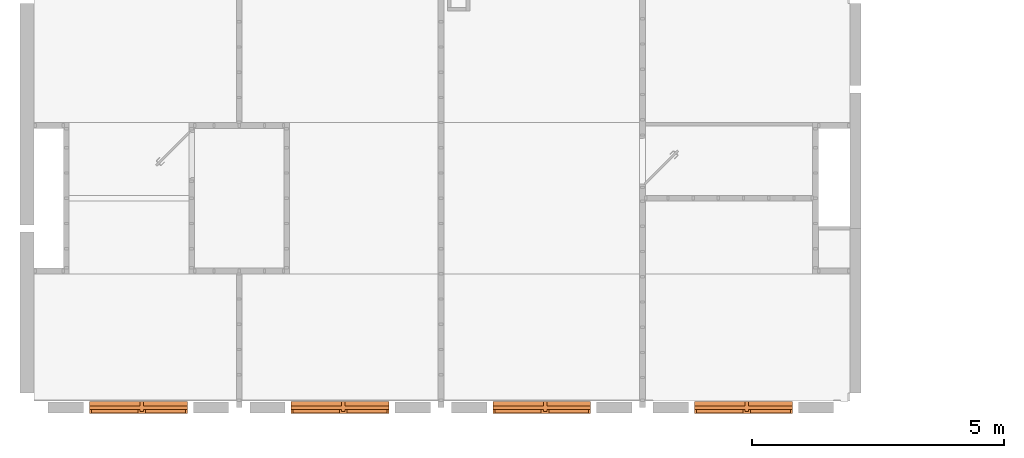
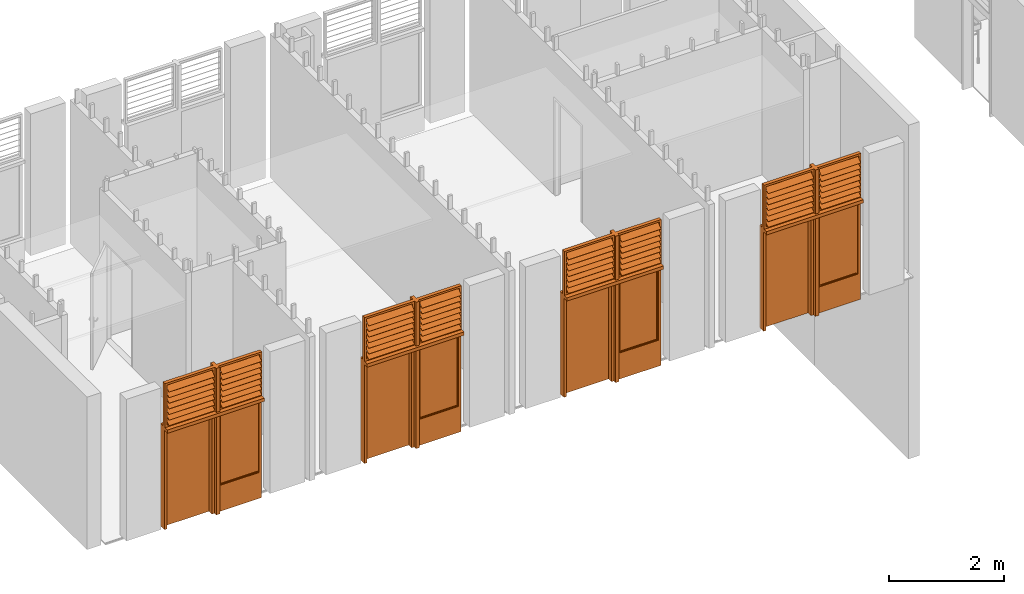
# One storey, part 15 of 20: 4 proxies.
"""IFC2X3 building model written with IfcOpenShell, lengths in metres."""

from ifc_helpers import new_model, entity, si_unit, converted_unit, derived_unit, direction, frame, origin, place, context, subcontext, project, spatial, faceted_brep, source, transform, mapped, material, material_list, type_object, type_shapes, element, save


model = new_model("IFC2X3")

# Units and contexts
model_context = context("Model", 3, precision=1e-05, world=origin(), true_north=direction((6.12303176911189e-17, 1.0)))
body_context = subcontext(model_context, "Body", "Model", "MODEL_VIEW")
ifc_project = project(units=[si_unit("LENGTHUNIT", "METRE"), si_unit("AREAUNIT", "SQUARE_METRE"), si_unit("VOLUMEUNIT", "CUBIC_METRE"), converted_unit("PLANEANGLEUNIT", "DEGREE", entity("IfcRatioMeasure", 0.0174532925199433), si_unit("PLANEANGLEUNIT", "RADIAN"), dimensions=[0, 0, 0, 0, 0, 0, 0]), si_unit("MASSUNIT", "GRAM", prefix="KILO"), derived_unit("MASSDENSITYUNIT", [(si_unit("MASSUNIT", "GRAM", prefix="KILO"), 1), (si_unit("LENGTHUNIT", "METRE"), -3)]), si_unit("TIMEUNIT", "SECOND"), si_unit("FREQUENCYUNIT", "HERTZ"), si_unit("THERMODYNAMICTEMPERATUREUNIT", "DEGREE_CELSIUS"), derived_unit("THERMALTRANSMITTANCEUNIT", [(si_unit("MASSUNIT", "GRAM", prefix="KILO"), 1), (si_unit("THERMODYNAMICTEMPERATUREUNIT", "KELVIN"), -1), (si_unit("TIMEUNIT", "SECOND"), -3)]), derived_unit("VOLUMETRICFLOWRATEUNIT", [(si_unit("LENGTHUNIT", "METRE"), 3), (si_unit("TIMEUNIT", "SECOND"), -1)]), si_unit("ELECTRICCURRENTUNIT", "AMPERE"), si_unit("ELECTRICVOLTAGEUNIT", "VOLT"), si_unit("POWERUNIT", "WATT"), si_unit("FORCEUNIT", "NEWTON", prefix="KILO"), si_unit("ILLUMINANCEUNIT", "LUX"), si_unit("LUMINOUSFLUXUNIT", "LUMEN"), si_unit("LUMINOUSINTENSITYUNIT", "CANDELA"), derived_unit("USERDEFINED", [(si_unit("MASSUNIT", "GRAM", prefix="KILO"), -1), (si_unit("LENGTHUNIT", "METRE"), -2), (si_unit("TIMEUNIT", "SECOND"), 3), (si_unit("LUMINOUSFLUXUNIT", "LUMEN"), 1)]), derived_unit("LINEARVELOCITYUNIT", [(si_unit("LENGTHUNIT", "METRE"), 1), (si_unit("TIMEUNIT", "SECOND"), -1)]), si_unit("PRESSUREUNIT", "PASCAL"), derived_unit("USERDEFINED", [(si_unit("LENGTHUNIT", "METRE"), -2), (si_unit("MASSUNIT", "GRAM", prefix="KILO"), 1), (si_unit("TIMEUNIT", "SECOND"), -2)])], contexts=[model_context])

# Site, building, storey
site_placement = place(None, origin())
site = spatial("IfcSite", under=ifc_project, at=site_placement, Name="Surface", CompositionType="ELEMENT")
building_placement = place(site_placement, origin())
building = spatial("IfcBuilding", under=site, at=building_placement, Name="ExPREF", CompositionType="ELEMENT")
storey_placement = place(building_placement, frame((0.0, 0.0, 4.27)))
storey = spatial("IfcBuildingStorey", under=building, at=storey_placement, Name="R+1", CompositionType="ELEMENT", Elevation=4.27)

# Proxies
ifc_material_1 = material(Name="AA-Aluminium")
ifc_material_2 = material(Name="AA-vitrage")
ifc_material_3 = material(Name="AA-bois menuiseries")
ifc_material_list_1 = material_list([ifc_material_1, ifc_material_2, ifc_material_3])
ifc_material_list_2 = material_list([ifc_material_1, ifc_material_2, ifc_material_3])
building_element_proxy_type = type_object("IfcBuildingElementProxyType", Name="R+2 porte + fenetre", PredefinedType="NOTDEFINED", material=ifc_material_list_2)
shared_shape = source(origin(), body_context, "Body", "Brep", [
    faceted_brep([(0.139999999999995, -0.113917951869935, 3.02140538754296), (0.139999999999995, -0.11833588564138, 3.02771485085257), (0.139999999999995, -0.101483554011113, 3.03951498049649), (0.139999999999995, -0.0970656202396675, 3.03320551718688), (0.930000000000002, -0.113917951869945, 3.02140538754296), (0.930000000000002, -0.0970656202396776, 3.03320551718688), (0.930000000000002, -0.101483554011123, 3.03951498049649), (0.930000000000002, -0.118335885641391, 3.02771485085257)], [[[0, 1, 2, 3]], [[4, 5, 6, 7]], [[3, 5, 4, 0]], [[2, 6, 5, 3]], [[1, 7, 6, 2]], [[0, 4, 7, 1]]]),
    faceted_brep([(0.139999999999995, -0.114720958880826, 3.02255220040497), (0.139999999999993, -0.220741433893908, 2.94831586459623), (0.139999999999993, -0.223609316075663, 2.95241162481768), (0.139999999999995, -0.117588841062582, 3.02664796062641), (0.930000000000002, -0.114720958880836, 3.02255220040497), (0.930000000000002, -0.117588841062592, 3.02664796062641), (0.93, -0.223609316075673, 2.95241162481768), (0.93, -0.220741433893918, 2.94831586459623)], [[[0, 1, 2, 3]], [[4, 5, 6, 7]], [[3, 5, 4, 0]], [[2, 6, 5, 3]], [[1, 7, 6, 2]], [[0, 4, 7, 1]]]),
    faceted_brep([(-0.930000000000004, -0.113917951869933, 3.02140538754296), (-0.930000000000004, -0.118335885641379, 3.02771485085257), (-0.930000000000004, -0.101483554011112, 3.03951498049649), (-0.930000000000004, -0.097065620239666, 3.03320551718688), (-0.00999999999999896, -0.113917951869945, 3.02140538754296), (-0.00999999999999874, -0.0970656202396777, 3.03320551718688), (-0.0099999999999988, -0.101483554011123, 3.03951498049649), (-0.00999999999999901, -0.118335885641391, 3.02771485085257)], [[[0, 1, 2, 3]], [[4, 5, 6, 7]], [[3, 5, 4, 0]], [[2, 6, 5, 3]], [[1, 7, 6, 2]], [[0, 4, 7, 1]]]),
    faceted_brep([(-0.930000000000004, -0.114720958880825, 3.02255220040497), (-0.930000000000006, -0.220741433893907, 2.94831586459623), (-0.930000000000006, -0.223609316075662, 2.95241162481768), (-0.930000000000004, -0.11758884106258, 3.02664796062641), (-0.00999999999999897, -0.114720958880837, 3.02255220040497), (-0.009999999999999, -0.117588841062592, 3.02664796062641), (-0.0100000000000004, -0.223609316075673, 2.95241162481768), (-0.0100000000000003, -0.220741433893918, 2.94831586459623)], [[[0, 1, 2, 3]], [[4, 5, 6, 7]], [[3, 5, 4, 0]], [[2, 6, 5, 3]], [[1, 7, 6, 2]], [[0, 4, 7, 1]]]),
    faceted_brep([(0.139999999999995, -0.113917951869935, 2.90240538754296), (0.139999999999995, -0.11833588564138, 2.90871485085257), (0.139999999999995, -0.101483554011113, 2.92051498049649), (0.139999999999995, -0.0970656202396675, 2.91420551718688), (0.930000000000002, -0.113917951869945, 2.90240538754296), (0.930000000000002, -0.0970656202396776, 2.91420551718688), (0.930000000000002, -0.101483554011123, 2.92051498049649), (0.930000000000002, -0.118335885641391, 2.90871485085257)], [[[0, 1, 2, 3]], [[4, 5, 6, 7]], [[3, 5, 4, 0]], [[2, 6, 5, 3]], [[1, 7, 6, 2]], [[0, 4, 7, 1]]]),
    faceted_brep([(0.139999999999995, -0.114720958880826, 2.90355220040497), (0.139999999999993, -0.220741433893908, 2.82931586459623), (0.139999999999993, -0.223609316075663, 2.83341162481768), (0.139999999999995, -0.117588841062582, 2.90764796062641), (0.930000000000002, -0.114720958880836, 2.90355220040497), (0.930000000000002, -0.117588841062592, 2.90764796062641), (0.93, -0.223609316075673, 2.83341162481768), (0.93, -0.220741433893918, 2.82931586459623)], [[[0, 1, 2, 3]], [[4, 5, 6, 7]], [[3, 5, 4, 0]], [[2, 6, 5, 3]], [[1, 7, 6, 2]], [[0, 4, 7, 1]]]),
    faceted_brep([(-0.930000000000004, -0.113917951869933, 2.90240538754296), (-0.930000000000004, -0.118335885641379, 2.90871485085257), (-0.930000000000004, -0.101483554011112, 2.92051498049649), (-0.930000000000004, -0.097065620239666, 2.91420551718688), (-0.00999999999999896, -0.113917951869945, 2.90240538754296), (-0.00999999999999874, -0.0970656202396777, 2.91420551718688), (-0.0099999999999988, -0.101483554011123, 2.92051498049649), (-0.00999999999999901, -0.118335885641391, 2.90871485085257)], [[[0, 1, 2, 3]], [[4, 5, 6, 7]], [[3, 5, 4, 0]], [[2, 6, 5, 3]], [[1, 7, 6, 2]], [[0, 4, 7, 1]]]),
    faceted_brep([(-0.930000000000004, -0.114720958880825, 2.90355220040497), (-0.930000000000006, -0.220741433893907, 2.82931586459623), (-0.930000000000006, -0.223609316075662, 2.83341162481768), (-0.930000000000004, -0.11758884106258, 2.90764796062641), (-0.00999999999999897, -0.114720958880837, 2.90355220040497), (-0.009999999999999, -0.117588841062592, 2.90764796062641), (-0.0100000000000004, -0.223609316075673, 2.83341162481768), (-0.0100000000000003, -0.220741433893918, 2.82931586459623)], [[[0, 1, 2, 3]], [[4, 5, 6, 7]], [[3, 5, 4, 0]], [[2, 6, 5, 3]], [[1, 7, 6, 2]], [[0, 4, 7, 1]]]),
    faceted_brep([(0.139999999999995, -0.113917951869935, 2.78340538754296), (0.139999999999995, -0.11833588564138, 2.78971485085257), (0.139999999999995, -0.101483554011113, 2.80151498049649), (0.139999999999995, -0.0970656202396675, 2.79520551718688), (0.930000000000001, -0.113917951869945, 2.78340538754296), (0.930000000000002, -0.0970656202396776, 2.79520551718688), (0.930000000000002, -0.101483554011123, 2.80151498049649), (0.930000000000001, -0.118335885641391, 2.78971485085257)], [[[0, 1, 2, 3]], [[4, 5, 6, 7]], [[3, 5, 4, 0]], [[2, 6, 5, 3]], [[1, 7, 6, 2]], [[0, 4, 7, 1]]]),
    faceted_brep([(0.139999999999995, -0.114720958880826, 2.78455220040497), (0.139999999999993, -0.220741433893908, 2.71031586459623), (0.139999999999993, -0.223609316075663, 2.71441162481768), (0.139999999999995, -0.117588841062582, 2.78864796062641), (0.930000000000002, -0.114720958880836, 2.78455220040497), (0.930000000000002, -0.117588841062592, 2.78864796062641), (0.93, -0.223609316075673, 2.71441162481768), (0.93, -0.220741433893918, 2.71031586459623)], [[[0, 1, 2, 3]], [[4, 5, 6, 7]], [[3, 5, 4, 0]], [[2, 6, 5, 3]], [[1, 7, 6, 2]], [[0, 4, 7, 1]]]),
    faceted_brep([(-0.930000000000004, -0.113917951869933, 2.78340538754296), (-0.930000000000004, -0.118335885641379, 2.78971485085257), (-0.930000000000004, -0.101483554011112, 2.80151498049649), (-0.930000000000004, -0.097065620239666, 2.79520551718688), (-0.00999999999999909, -0.113917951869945, 2.78340538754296), (-0.00999999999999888, -0.0970656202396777, 2.79520551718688), (-0.00999999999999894, -0.101483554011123, 2.80151498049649), (-0.00999999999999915, -0.118335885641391, 2.78971485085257)], [[[0, 1, 2, 3]], [[4, 5, 6, 7]], [[3, 5, 4, 0]], [[2, 6, 5, 3]], [[1, 7, 6, 2]], [[0, 4, 7, 1]]]),
    faceted_brep([(-0.930000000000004, -0.114720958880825, 2.78455220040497), (-0.930000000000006, -0.220741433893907, 2.71031586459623), (-0.930000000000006, -0.223609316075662, 2.71441162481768), (-0.930000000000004, -0.11758884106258, 2.78864796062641), (-0.0099999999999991, -0.114720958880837, 2.78455220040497), (-0.00999999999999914, -0.117588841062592, 2.78864796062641), (-0.0100000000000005, -0.223609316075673, 2.71441162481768), (-0.0100000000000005, -0.220741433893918, 2.71031586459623)], [[[0, 1, 2, 3]], [[4, 5, 6, 7]], [[3, 5, 4, 0]], [[2, 6, 5, 3]], [[1, 7, 6, 2]], [[0, 4, 7, 1]]]),
    faceted_brep([(-0.930000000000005, -0.113917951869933, 2.66440538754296), (-0.930000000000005, -0.118335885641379, 2.67071485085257), (-0.930000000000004, -0.101483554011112, 2.68251498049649), (-0.930000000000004, -0.097065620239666, 2.67620551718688), (-0.00999999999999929, -0.113917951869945, 2.66440538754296), (-0.00999999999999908, -0.0970656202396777, 2.67620551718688), (-0.00999999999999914, -0.101483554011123, 2.68251498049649), (-0.00999999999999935, -0.118335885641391, 2.67071485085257)], [[[0, 1, 2, 3]], [[4, 5, 6, 7]], [[3, 5, 4, 0]], [[2, 6, 5, 3]], [[1, 7, 6, 2]], [[0, 4, 7, 1]]]),
    faceted_brep([(-0.930000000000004, -0.114720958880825, 2.66555220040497), (-0.930000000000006, -0.220741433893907, 2.59131586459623), (-0.930000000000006, -0.223609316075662, 2.59541162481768), (-0.930000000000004, -0.11758884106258, 2.66964796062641), (-0.0099999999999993, -0.114720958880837, 2.66555220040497), (-0.00999999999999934, -0.117588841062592, 2.66964796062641), (-0.0100000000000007, -0.223609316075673, 2.59541162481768), (-0.0100000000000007, -0.220741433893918, 2.59131586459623)], [[[0, 1, 2, 3]], [[4, 5, 6, 7]], [[3, 5, 4, 0]], [[2, 6, 5, 3]], [[1, 7, 6, 2]], [[0, 4, 7, 1]]]),
    faceted_brep([(-0.930000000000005, -0.113917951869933, 2.54540538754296), (-0.930000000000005, -0.118335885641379, 2.55171485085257), (-0.930000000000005, -0.101483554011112, 2.56351498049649), (-0.930000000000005, -0.097065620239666, 2.55720551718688), (-0.0099999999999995, -0.113917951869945, 2.54540538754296), (-0.00999999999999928, -0.0970656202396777, 2.55720551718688), (-0.00999999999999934, -0.101483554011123, 2.56351498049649), (-0.00999999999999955, -0.118335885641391, 2.55171485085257)], [[[0, 1, 2, 3]], [[4, 5, 6, 7]], [[3, 5, 4, 0]], [[2, 6, 5, 3]], [[1, 7, 6, 2]], [[0, 4, 7, 1]]]),
    faceted_brep([(-0.930000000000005, -0.114720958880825, 2.54655220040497), (-0.930000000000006, -0.220741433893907, 2.47231586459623), (-0.930000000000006, -0.223609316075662, 2.47641162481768), (-0.930000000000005, -0.11758884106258, 2.55064796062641), (-0.00999999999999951, -0.114720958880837, 2.54655220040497), (-0.00999999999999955, -0.117588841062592, 2.55064796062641), (-0.0100000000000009, -0.223609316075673, 2.47641162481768), (-0.0100000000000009, -0.220741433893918, 2.47231586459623)], [[[0, 1, 2, 3]], [[4, 5, 6, 7]], [[3, 5, 4, 0]], [[2, 6, 5, 3]], [[1, 7, 6, 2]], [[0, 4, 7, 1]]]),
    faceted_brep([(0.139999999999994, -0.113917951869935, 2.66440538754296), (0.139999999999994, -0.11833588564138, 2.67071485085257), (0.139999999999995, -0.101483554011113, 2.68251498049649), (0.139999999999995, -0.0970656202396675, 2.67620551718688), (0.930000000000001, -0.113917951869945, 2.66440538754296), (0.930000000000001, -0.0970656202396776, 2.67620551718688), (0.930000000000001, -0.101483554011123, 2.68251498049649), (0.930000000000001, -0.118335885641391, 2.67071485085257)], [[[0, 1, 2, 3]], [[4, 5, 6, 7]], [[3, 5, 4, 0]], [[2, 6, 5, 3]], [[1, 7, 6, 2]], [[0, 4, 7, 1]]]),
    faceted_brep([(0.139999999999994, -0.114720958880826, 2.66555220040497), (0.139999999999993, -0.220741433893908, 2.59131586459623), (0.139999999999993, -0.223609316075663, 2.59541162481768), (0.139999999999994, -0.117588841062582, 2.66964796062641), (0.930000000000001, -0.114720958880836, 2.66555220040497), (0.930000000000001, -0.117588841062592, 2.66964796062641), (0.93, -0.223609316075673, 2.59541162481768), (0.93, -0.220741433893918, 2.59131586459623)], [[[0, 1, 2, 3]], [[4, 5, 6, 7]], [[3, 5, 4, 0]], [[2, 6, 5, 3]], [[1, 7, 6, 2]], [[0, 4, 7, 1]]]),
    faceted_brep([(0.139999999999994, -0.113917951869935, 2.54540538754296), (0.139999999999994, -0.11833588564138, 2.55171485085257), (0.139999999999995, -0.101483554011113, 2.56351498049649), (0.139999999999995, -0.0970656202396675, 2.55720551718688), (0.930000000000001, -0.113917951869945, 2.54540538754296), (0.930000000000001, -0.0970656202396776, 2.55720551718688), (0.930000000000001, -0.101483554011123, 2.56351498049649), (0.930000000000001, -0.118335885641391, 2.55171485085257)], [[[0, 1, 2, 3]], [[4, 5, 6, 7]], [[3, 5, 4, 0]], [[2, 6, 5, 3]], [[1, 7, 6, 2]], [[0, 4, 7, 1]]]),
    faceted_brep([(0.139999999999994, -0.114720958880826, 2.54655220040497), (0.139999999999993, -0.220741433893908, 2.47231586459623), (0.139999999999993, -0.223609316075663, 2.47641162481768), (0.139999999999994, -0.117588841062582, 2.55064796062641), (0.930000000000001, -0.114720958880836, 2.54655220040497), (0.930000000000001, -0.117588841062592, 2.55064796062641), (0.93, -0.223609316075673, 2.47641162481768), (0.93, -0.220741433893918, 2.47231586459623)], [[[0, 1, 2, 3]], [[4, 5, 6, 7]], [[3, 5, 4, 0]], [[2, 6, 5, 3]], [[1, 7, 6, 2]], [[0, 4, 7, 1]]]),
    faceted_brep([(0.139999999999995, -0.113917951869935, 2.42640538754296), (0.139999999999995, -0.11833588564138, 2.43271485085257), (0.139999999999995, -0.101483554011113, 2.44451498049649), (0.139999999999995, -0.0970656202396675, 2.43820551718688), (0.930000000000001, -0.113917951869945, 2.42640538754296), (0.930000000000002, -0.0970656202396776, 2.43820551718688), (0.930000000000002, -0.101483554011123, 2.44451498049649), (0.930000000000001, -0.118335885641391, 2.43271485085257)], [[[0, 1, 2, 3]], [[4, 5, 6, 7]], [[3, 5, 4, 0]], [[2, 6, 5, 3]], [[1, 7, 6, 2]], [[0, 4, 7, 1]]]),
    faceted_brep([(0.139999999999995, -0.114720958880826, 2.42755220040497), (0.139999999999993, -0.220741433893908, 2.35331586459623), (0.139999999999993, -0.223609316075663, 2.35741162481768), (0.139999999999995, -0.117588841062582, 2.43164796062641), (0.930000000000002, -0.114720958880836, 2.42755220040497), (0.930000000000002, -0.117588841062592, 2.43164796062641), (0.93, -0.223609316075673, 2.35741162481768), (0.93, -0.220741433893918, 2.35331586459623)], [[[0, 1, 2, 3]], [[4, 5, 6, 7]], [[3, 5, 4, 0]], [[2, 6, 5, 3]], [[1, 7, 6, 2]], [[0, 4, 7, 1]]]),
    faceted_brep([(0.139999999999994, -0.113917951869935, 2.30740538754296), (0.139999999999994, -0.11833588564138, 2.31371485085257), (0.139999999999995, -0.101483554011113, 2.32551498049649), (0.139999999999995, -0.0970656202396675, 2.31920551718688), (0.930000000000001, -0.113917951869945, 2.30740538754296), (0.930000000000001, -0.0970656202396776, 2.31920551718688), (0.930000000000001, -0.101483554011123, 2.32551498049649), (0.930000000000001, -0.118335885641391, 2.31371485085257)], [[[0, 1, 2, 3]], [[4, 5, 6, 7]], [[3, 5, 4, 0]], [[2, 6, 5, 3]], [[1, 7, 6, 2]], [[0, 4, 7, 1]]]),
    faceted_brep([(0.139999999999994, -0.114720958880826, 2.30855220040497), (0.139999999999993, -0.220741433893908, 2.23431586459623), (0.139999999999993, -0.223609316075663, 2.23841162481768), (0.139999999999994, -0.117588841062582, 2.31264796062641), (0.930000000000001, -0.114720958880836, 2.30855220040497), (0.930000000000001, -0.117588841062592, 2.31264796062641), (0.93, -0.223609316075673, 2.23841162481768), (0.93, -0.220741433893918, 2.23431586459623)], [[[0, 1, 2, 3]], [[4, 5, 6, 7]], [[3, 5, 4, 0]], [[2, 6, 5, 3]], [[1, 7, 6, 2]], [[0, 4, 7, 1]]]),
    faceted_brep([(-0.930000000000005, -0.113917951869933, 2.42640538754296), (-0.930000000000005, -0.118335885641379, 2.43271485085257), (-0.930000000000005, -0.101483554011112, 2.44451498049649), (-0.930000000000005, -0.097065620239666, 2.43820551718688), (-0.0099999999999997, -0.113917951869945, 2.42640538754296), (-0.00999999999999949, -0.0970656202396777, 2.43820551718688), (-0.00999999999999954, -0.101483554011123, 2.44451498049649), (-0.00999999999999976, -0.118335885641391, 2.43271485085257)], [[[0, 1, 2, 3]], [[4, 5, 6, 7]], [[3, 5, 4, 0]], [[2, 6, 5, 3]], [[1, 7, 6, 2]], [[0, 4, 7, 1]]]),
    faceted_brep([(-0.930000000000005, -0.114720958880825, 2.42755220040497), (-0.930000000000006, -0.220741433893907, 2.35331586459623), (-0.930000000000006, -0.223609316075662, 2.35741162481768), (-0.930000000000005, -0.11758884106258, 2.43164796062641), (-0.00999999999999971, -0.114720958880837, 2.42755220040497), (-0.00999999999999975, -0.117588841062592, 2.43164796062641), (-0.0100000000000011, -0.223609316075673, 2.35741162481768), (-0.0100000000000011, -0.220741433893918, 2.35331586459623)], [[[0, 1, 2, 3]], [[4, 5, 6, 7]], [[3, 5, 4, 0]], [[2, 6, 5, 3]], [[1, 7, 6, 2]], [[0, 4, 7, 1]]]),
    faceted_brep([(-0.930000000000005, -0.113917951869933, 2.30740538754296), (-0.930000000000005, -0.118335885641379, 2.31371485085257), (-0.930000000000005, -0.101483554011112, 2.32551498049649), (-0.930000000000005, -0.097065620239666, 2.31920551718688), (-0.0099999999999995, -0.113917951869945, 2.30740538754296), (-0.00999999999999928, -0.0970656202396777, 2.31920551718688), (-0.00999999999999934, -0.101483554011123, 2.32551498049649), (-0.00999999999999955, -0.118335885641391, 2.31371485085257)], [[[0, 1, 2, 3]], [[4, 5, 6, 7]], [[3, 5, 4, 0]], [[2, 6, 5, 3]], [[1, 7, 6, 2]], [[0, 4, 7, 1]]]),
    faceted_brep([(-0.930000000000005, -0.114720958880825, 2.30855220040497), (-0.930000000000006, -0.220741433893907, 2.23431586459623), (-0.930000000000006, -0.223609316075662, 2.23841162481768), (-0.930000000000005, -0.11758884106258, 2.31264796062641), (-0.00999999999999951, -0.114720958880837, 2.30855220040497), (-0.00999999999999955, -0.117588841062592, 2.31264796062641), (-0.0100000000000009, -0.223609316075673, 2.23841162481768), (-0.0100000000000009, -0.220741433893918, 2.23431586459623)], [[[0, 1, 2, 3]], [[4, 5, 6, 7]], [[3, 5, 4, 0]], [[2, 6, 5, 3]], [[1, 7, 6, 2]], [[0, 4, 7, 1]]]),
    faceted_brep([(0.904999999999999, -0.0900000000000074, 2.03499999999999), (0.904999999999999, -0.0900000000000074, 0.564999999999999), (0.164999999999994, -0.0900000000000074, 0.564999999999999), (0.164999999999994, -0.0900000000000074, 2.03499999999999), (0.904999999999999, -0.110000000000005, 2.03499999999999), (0.164999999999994, -0.110000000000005, 2.03499999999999), (0.164999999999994, -0.110000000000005, 0.564999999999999), (0.904999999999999, -0.110000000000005, 0.564999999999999)], [[[0, 1, 2, 3]], [[4, 5, 6, 7]], [[0, 3, 5, 4]], [[3, 2, 6, 5]], [[2, 1, 7, 6]], [[1, 0, 4, 7]]]),
    faceted_brep([(0.934999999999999, -0.0800000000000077, 2.065), (0.934999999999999, -0.120000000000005, 2.065), (0.934999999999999, -0.120000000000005, 0.534999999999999), (0.934999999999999, -0.0800000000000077, 0.534999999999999), (0.904999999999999, -0.120000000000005, 2.03499999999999), (0.904999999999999, -0.0800000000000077, 2.03499999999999), (0.904999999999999, -0.0800000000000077, 0.564999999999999), (0.904999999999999, -0.120000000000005, 0.564999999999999), (0.134999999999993, -0.120000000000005, 0.534999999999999), (0.134999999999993, -0.0800000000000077, 0.534999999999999), (0.164999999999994, -0.0800000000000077, 0.564999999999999), (0.164999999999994, -0.120000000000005, 0.564999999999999), (0.134999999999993, -0.120000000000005, 2.065), (0.134999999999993, -0.0800000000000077, 2.065), (0.164999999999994, -0.0800000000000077, 2.03499999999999), (0.164999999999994, -0.120000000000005, 2.03499999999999)], [[[0, 1, 2, 3]], [[4, 5, 6, 7]], [[3, 2, 8, 9]], [[7, 6, 10, 11]], [[9, 8, 12, 13]], [[11, 10, 14, 15]], [[7, 11, 15, 4], [1, 12, 8, 2]], [[13, 12, 1, 0]], [[3, 9, 13, 0], [5, 14, 10, 6]], [[15, 14, 5, 4]]], outer=[[True], [True], [True], [True], [True], [True], [False, True], [True], [True, False], [True]]),
    faceted_brep([(0.969999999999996, -0.140000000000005, 0.500000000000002), (0.969999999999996, -0.080000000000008, 0.500000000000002), (0.969999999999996, -0.080000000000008, 2.09999999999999), (0.969999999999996, -0.140000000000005, 2.09999999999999), (0.919999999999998, -0.120000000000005, 0.549999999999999), (0.919999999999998, -0.140000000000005, 0.549999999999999), (0.919999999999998, -0.140000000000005, 2.05), (0.919999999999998, -0.120000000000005, 2.05), (0.934999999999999, -0.0800000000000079, 0.534999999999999), (0.934999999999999, -0.120000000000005, 0.534999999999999), (0.934999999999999, -0.120000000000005, 2.065), (0.934999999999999, -0.0800000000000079, 2.065), (0.0999999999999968, -0.080000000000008, 2.09999999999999), (0.099999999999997, -0.140000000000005, 2.09999999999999), (0.149999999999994, -0.140000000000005, 2.04999999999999), (0.149999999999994, -0.120000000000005, 2.05), (0.134999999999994, -0.120000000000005, 2.065), (0.134999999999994, -0.0800000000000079, 2.065), (0.0999999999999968, -0.080000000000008, 0.500000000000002), (0.099999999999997, -0.140000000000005, 0.500000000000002), (0.149999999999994, -0.140000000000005, 0.549999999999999), (0.149999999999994, -0.120000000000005, 0.549999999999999), (0.134999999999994, -0.120000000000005, 0.534999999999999), (0.134999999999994, -0.0800000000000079, 0.534999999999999)], [[[0, 1, 2, 3]], [[4, 5, 6, 7]], [[8, 9, 10, 11]], [[3, 2, 12, 13]], [[7, 6, 14, 15]], [[11, 10, 16, 17]], [[13, 12, 18, 19]], [[15, 14, 20, 21]], [[17, 16, 22, 23]], [[11, 17, 23, 8], [1, 18, 12, 2]], [[19, 18, 1, 0]], [[3, 13, 19, 0], [5, 20, 14, 6]], [[21, 20, 5, 4]], [[7, 15, 21, 4], [9, 22, 16, 10]], [[23, 22, 9, 8]]], outer=[[True], [True], [True], [True], [True], [True], [True], [True], [True], [False, True], [True], [True, False], [True], [False, True], [True]]),
    faceted_brep([(-0.97, -0.155, 2.17), (0.0299999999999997, -0.155, 2.17), (0.0299999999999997, -0.155, 3.10000000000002), (-0.97, -0.155, 3.10000000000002), (-0.930000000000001, -0.155, 2.21), (-0.930000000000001, -0.155, 3.06000000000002), (-0.0100000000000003, -0.155, 3.06000000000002), (-0.0100000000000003, -0.155, 2.21), (-0.930000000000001, -0.085000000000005, 2.21), (-0.0100000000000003, -0.085000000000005, 2.21), (-0.0100000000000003, -0.085000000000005, 3.06000000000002), (-0.930000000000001, -0.085000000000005, 3.06000000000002), (-0.97, -0.085000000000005, 2.17), (-0.97, -0.085000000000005, 3.10000000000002), (0.0299999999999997, -0.085000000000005, 3.10000000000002), (0.0299999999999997, -0.085000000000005, 2.17)], [[[0, 1, 2, 3], [4, 5, 6, 7]], [[8, 9, 10, 11], [12, 13, 14, 15]], [[1, 0, 12, 15]], [[4, 7, 9, 8]], [[0, 3, 13, 12]], [[5, 4, 8, 11]], [[2, 1, 15, 14]], [[7, 6, 10, 9]], [[3, 2, 14, 13]], [[6, 5, 11, 10]]], outer=[[True, False], [False, True], [True], [True], [True], [True], [True], [True], [True], [True]]),
    faceted_brep([(0.0999999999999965, -0.155, 2.16999999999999), (0.970000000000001, -0.155, 2.16999999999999), (0.970000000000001, -0.155, 3.10000000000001), (0.0999999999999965, -0.155, 3.10000000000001), (0.139999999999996, -0.155, 2.20999999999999), (0.139999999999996, -0.155, 3.06000000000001), (0.930000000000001, -0.155, 3.06000000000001), (0.930000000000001, -0.155, 2.20999999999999), (0.139999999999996, -0.085000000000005, 2.20999999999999), (0.930000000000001, -0.085000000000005, 2.20999999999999), (0.930000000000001, -0.085000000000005, 3.06000000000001), (0.139999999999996, -0.085000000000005, 3.06000000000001), (0.0999999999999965, -0.085000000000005, 2.16999999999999), (0.0999999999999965, -0.085000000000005, 3.10000000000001), (0.970000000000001, -0.085000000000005, 3.10000000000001), (0.970000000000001, -0.085000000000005, 2.16999999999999)], [[[0, 1, 2, 3], [4, 5, 6, 7]], [[8, 9, 10, 11], [12, 13, 14, 15]], [[1, 0, 12, 15]], [[2, 1, 15, 14]], [[7, 6, 10, 9]], [[4, 7, 9, 8]], [[0, 3, 13, 12]], [[5, 4, 8, 11]], [[3, 2, 14, 13]], [[6, 5, 11, 10]]], outer=[[True, False], [False, True], [True], [True], [True], [True], [True], [True], [True], [True]]),
    faceted_brep([(0.0999999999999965, -0.2, 3.10000000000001), (0.0299999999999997, -0.2, 3.10000000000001), (0.0299999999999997, -0.2, 2.17), (0.0999999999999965, -0.2, 2.17), (0.0999999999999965, 0.0, 3.10000000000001), (0.0299999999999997, 0.0, 3.10000000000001), (0.0999999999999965, 0.0, 2.17), (0.0299999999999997, 0.0, 2.17)], [[[0, 1, 2, 3]], [[1, 0, 4, 5]], [[0, 3, 6, 4]], [[2, 1, 5, 7]], [[3, 2, 7, 6]], [[4, 6, 7, 5]]]),
    faceted_brep([(0.0299999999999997, 0.0, 2.1), (0.0999999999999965, 0.0, 2.1), (0.0999999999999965, 0.0, 0.0), (0.0299999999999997, 0.0, 0.0), (0.0299999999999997, -0.2, 0.0), (0.0299999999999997, -0.2, 2.1), (0.0999999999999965, -0.2, 0.0), (0.0999999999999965, -0.2, 2.1)], [[[0, 1, 2, 3]], [[4, 5, 0, 3]], [[6, 4, 3, 2]], [[7, 6, 2, 1]], [[5, 7, 1, 0]], [[5, 4, 6, 7]]]),
    faceted_brep([(-0.0050000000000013, 0.0, 2.065), (-0.935000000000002, 0.0, 2.065), (-0.935000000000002, -0.0400000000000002, 2.065), (-0.0050000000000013, -0.0400000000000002, 2.065), (-0.0050000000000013, 0.0, 0.0), (-0.0050000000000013, -0.0400000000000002, 0.0), (-0.935000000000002, -0.0400000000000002, 0.0), (-0.935000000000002, 0.0, 0.0)], [[[0, 1, 2, 3]], [[4, 5, 6, 7]], [[1, 0, 4, 7]], [[2, 1, 7, 6]], [[3, 2, 6, 5]], [[0, 3, 5, 4]]]),
    faceted_brep([(-0.970000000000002, -0.14, 0.0), (-0.970000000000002, 0.0, 0.0), (-0.935000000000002, 0.0, 0.0), (-0.935000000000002, -0.0400000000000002, 0.0), (-0.920000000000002, -0.0400000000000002, 0.0), (-0.920000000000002, -0.14, 0.0), (-0.969999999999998, -0.14, 2.1), (-0.969999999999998, 0.0, 2.1), (0.0300000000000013, 0.0, 2.1), (0.0299999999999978, 0.0, 0.0), (-0.00500000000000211, 0.0, 0.0), (-0.00499999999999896, 0.0, 2.065), (-0.934999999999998, 0.0, 2.065), (-0.934999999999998, -0.0400000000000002, 2.065), (-0.919999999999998, -0.14, 2.05), (-0.0199999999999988, -0.140000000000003, 2.05), (-0.0200000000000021, -0.140000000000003, 0.0), (0.0299999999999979, -0.140000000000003, 0.0), (0.0300000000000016, -0.14, 2.1), (-0.004999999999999, -0.0400000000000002, 2.065), (-0.0200000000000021, -0.0400000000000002, 0.0), (-0.00500000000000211, -0.0400000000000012, 0.0), (-0.0199999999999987, -0.0400000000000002, 2.05), (-0.919999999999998, -0.0400000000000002, 2.05)], [[[0, 1, 2, 3, 4, 5]], [[1, 0, 6, 7]], [[2, 1, 7, 8, 9, 10, 11, 12]], [[3, 2, 12, 13]], [[0, 5, 14, 15, 16, 17, 18, 6]], [[7, 6, 18, 8]], [[13, 12, 11, 19]], [[17, 16, 20, 21, 10, 9]], [[4, 3, 13, 19, 21, 20, 22, 23]], [[5, 4, 23, 14]], [[14, 23, 22, 15]], [[8, 18, 17, 9]], [[19, 11, 10, 21]], [[15, 22, 20, 16]]]),
    faceted_brep([(0.970000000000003, -0.140000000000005, 0.0), (0.970000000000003, -0.140000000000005, 0.500000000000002), (0.0999999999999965, -0.140000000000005, 0.500000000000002), (0.0999999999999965, -0.140000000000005, 0.0), (0.970000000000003, 0.0, 0.0), (0.0999999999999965, 0.0, 0.0), (0.0999999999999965, 0.0, 0.500000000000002), (0.970000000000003, 0.0, 0.500000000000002)], [[[0, 1, 2, 3]], [[4, 5, 6, 7]], [[1, 0, 4, 7]], [[2, 1, 7, 6]], [[3, 2, 6, 5]], [[0, 3, 5, 4]]]),
    faceted_brep([(0.97, -0.24, 2.09999999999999), (0.97, -0.24, 2.16999999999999), (-0.970000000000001, -0.24, 2.17), (-0.97, -0.24, 2.1), (0.97, 0.0, 2.09999999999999), (-0.97, 0.0, 2.1), (-0.97, 0.0, 2.17), (0.970000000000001, 0.0, 2.16999999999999)], [[[0, 1, 2, 3]], [[4, 5, 6, 7]], [[1, 0, 4, 7]], [[3, 2, 6, 5]], [[0, 3, 5, 4]], [[2, 1, 7, 6]]]),
])
type_shapes(building_element_proxy_type, [shared_shape])
proxy_1_placement = place(storey_placement, frame((39.4897436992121, -193.239651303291, 0.0)))
element("IfcBuildingElementProxy", 1, at=proxy_1_placement, inside=storey, type_object=building_element_proxy_type, material=ifc_material_list_1, Name="R+1 porte + fenetre:R+2 porte + fenetre", ObjectType="R+2 porte + fenetre", context=body_context, shape_type="MappedRepresentation", body=[
    mapped(shared_shape, transform((0.0, 0.0, 0.0), scale=1.0)),
])
ifc_material_list_3 = material_list([ifc_material_1, ifc_material_2, ifc_material_3])
proxy_2_placement = place(storey_placement, frame((35.4897436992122, -193.239651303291, 0.0)))
element("IfcBuildingElementProxy", 2, at=proxy_2_placement, inside=storey, type_object=building_element_proxy_type, material=ifc_material_list_3, Name="R+1 porte + fenetre:R+2 porte + fenetre", ObjectType="R+2 porte + fenetre", context=body_context, shape_type="MappedRepresentation", body=[
    mapped(shared_shape, transform((0.0, 0.0, 0.0), scale=1.0)),
])
ifc_material_list_4 = material_list([ifc_material_1, ifc_material_2, ifc_material_3])
proxy_3_placement = place(storey_placement, frame((31.4897436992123, -193.239651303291, 0.0)))
element("IfcBuildingElementProxy", 3, at=proxy_3_placement, inside=storey, type_object=building_element_proxy_type, material=ifc_material_list_4, Name="R+1 porte + fenetre:R+2 porte + fenetre", ObjectType="R+2 porte + fenetre", context=body_context, shape_type="MappedRepresentation", body=[
    mapped(shared_shape, transform((0.0, 0.0, 0.0), scale=1.0)),
])
ifc_material_list_5 = material_list([ifc_material_1, ifc_material_2, ifc_material_3])
proxy_4_placement = place(storey_placement, frame((27.4897436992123, -193.239651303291, 0.0)))
element("IfcBuildingElementProxy", 4, at=proxy_4_placement, inside=storey, type_object=building_element_proxy_type, material=ifc_material_list_5, Name="R+1 porte + fenetre:R+2 porte + fenetre", ObjectType="R+2 porte + fenetre", context=body_context, shape_type="MappedRepresentation", body=[
    mapped(shared_shape, transform((0.0, 0.0, 0.0), scale=1.0)),
])

save(model, "model.ifc")
